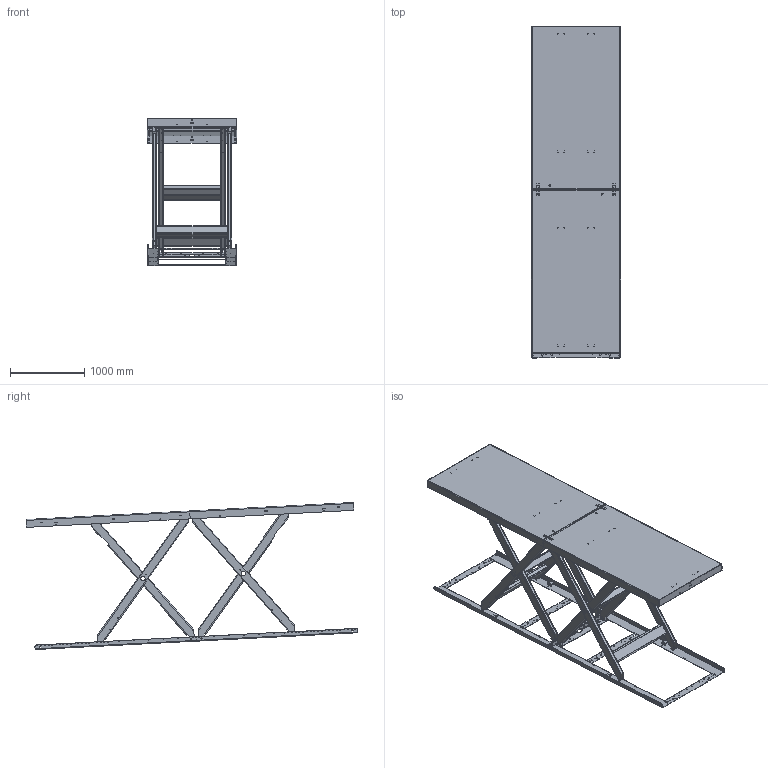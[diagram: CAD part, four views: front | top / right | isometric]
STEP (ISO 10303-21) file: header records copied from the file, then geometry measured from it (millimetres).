
FILE_DESCRIPTION(/* description */ ('TSH 4001 (4400x1200)'),/* implementation_level */ '2;1');
FILE_NAME(/* name */ '\\EDMOFILE01\Users$\JOHSO\Desktop\610970_Elevated.stp',/* time_stamp */ '2017-07-03T08:48:11+02:00',/* author */ ('johso'),/* organization */ (''),/* preprocessor_version */ 'ST-DEVELOPER v16.5',/* originating_system */ 'Autodesk Inventor 2017',/* authorisation */ '');
FILE_SCHEMA (('AUTOMOTIVE_DESIGN { 1 0 10303 214 3 1 1 }'));
Length unit declared in the file: millimetre
Products named in the file (27): 610970.tmp; 33731; 514600; 514601-4; 612092; 612093; 514601-2; 44870; 83208; 83209; 33732; 33732-1; 600196; 45259; 85955; 45387; ISO 4014 - M8 x 40; ISO 4019 - 50x50x5 - 1186; 48060; 606522; 606529; 82159-2112; 80060 - 768; 606523; 603642; 82159-2112_1; 82092 - 949
Assembly tree (72 placements, depth 4):
  610970.tmp
    33731
      514600  x2
        514601-4
        612092
        612093
        514601-2
        44870
        45259
      83208  x4
      83209  x4
    33732
      33732-1  x2
      45259  x4
      45387  x16
      ISO 4014 - M8 x 40  x10
      600196  x2
      85955  x2
      ISO 4019 - 50x50x5 - 1186
    48060  x2
    606522  x2
      606529
        82159-2112
      80060 - 768
    606523  x2
      603642
        82159-2112_1
      82092 - 949
Bounding box: 1200 x 4455.03 x 1974.72 mm (x, y, z)
Volume: 91083201.6 mm3; surface area: 31236701.2 mm2
Topology: 75 solids, 75 shells, 3362 faces, 9546 edges, 6344 vertices
Faces by surface type: cylinder 1624, plane 1620, cone 118
Full cylindrical faces by diameter (mm): 5.55 x8, 7.4 x64, 8 x10, 8.376 x4, 10 x4, 10.2 x8, 10.5 x8, 11.63 x10, 12 x8, 12.5 x6, 13 x16, 13.835 x2, 14.5 x32, 14.6 x4, 14.63 x4, 18.5 x2, 19 x2, 28.1 x8, 60 x8, 70 x8
Entity records: 40076 total; most frequent: CARTESIAN_POINT 7177, DIRECTION 6921, ORIENTED_EDGE 6576, EDGE_CURVE 3288, AXIS2_PLACEMENT_3D 2439, VERTEX_POINT 2227, LINE 2043, VECTOR 2043
